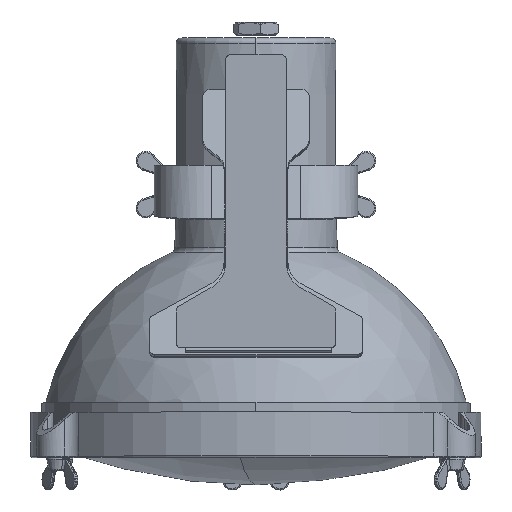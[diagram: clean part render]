
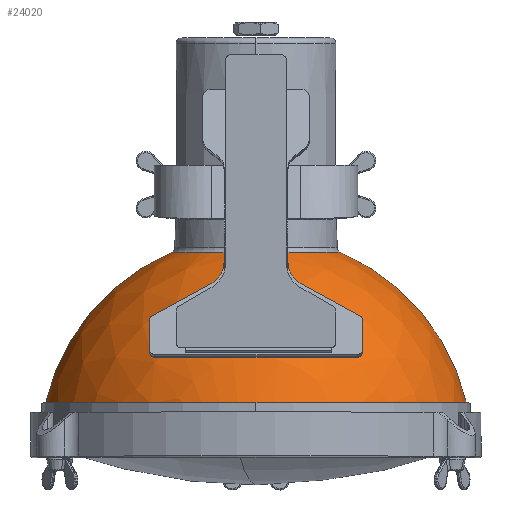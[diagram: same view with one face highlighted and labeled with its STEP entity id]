
A CAD part, top view. The second image highlights one B-rep face of the part: STEP entity #24020.
In plain terms, the highlighted spherical face has radius 80.966 mm.
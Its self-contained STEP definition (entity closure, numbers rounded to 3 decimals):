
#107 = EDGE_CURVE ( 'NONE', #3839, #2964, #2608, .T. ) ;
#409 = ORIENTED_EDGE ( 'NONE', *, *, #9322, .F. ) ;
#1371 = DIRECTION ( 'NONE',  ( 1., 0., 0. ) ) ;
#1723 = DIRECTION ( 'NONE',  ( 0., 0., 1. ) ) ;
#1816 = CIRCLE ( 'NONE', #1997, 78.94 ) ;
#1847 = DIRECTION ( 'NONE',  ( 0., 1., 0. ) ) ;
#1997 = AXIS2_PLACEMENT_3D ( 'NONE', #17620, #1847, #20253 ) ;
#2608 = CIRCLE ( 'NONE', #14446, 31.708 ) ;
#2964 = VERTEX_POINT ( 'NONE', #27275 ) ;
#3594 = FACE_OUTER_BOUND ( 'NONE', #21167, .T. ) ;
#3839 = VERTEX_POINT ( 'NONE', #24270 ) ;
#4349 = CARTESIAN_POINT ( 'NONE',  ( 0., 76.999, 0. ) ) ;
#4803 = CARTESIAN_POINT ( 'NONE',  ( -78.94, 20.5, 0. ) ) ;
#5164 = DIRECTION ( 'NONE',  ( 0., -1., 0. ) ) ;
#5312 = CARTESIAN_POINT ( 'NONE',  ( 78.94, 20.5, 0. ) ) ;
#7011 = DIRECTION ( 'NONE',  ( 0., 0., 1. ) ) ;
#9322 = EDGE_CURVE ( 'NONE', #16042, #19107, #18578, .T. ) ;
#10039 = VERTEX_POINT ( 'NONE', #5312 ) ;
#10594 = SPHERICAL_SURFACE ( 'NONE', #17486, 80.966 ) ;
#13509 = DIRECTION ( 'NONE',  ( 0., 0., -1. ) ) ;
#14120 = EDGE_CURVE ( 'NONE', #10039, #3839, #26492, .T. ) ;
#14446 = AXIS2_PLACEMENT_3D ( 'NONE', #15735, #5164, #21028 ) ;
#15115 = CIRCLE ( 'NONE', #22741, 31.708 ) ;
#15735 = CARTESIAN_POINT ( 'NONE',  ( 0., 76.999, 0. ) ) ;
#15786 = ORIENTED_EDGE ( 'NONE', *, *, #24114, .T. ) ;
#16042 = VERTEX_POINT ( 'NONE', #4803 ) ;
#16478 = AXIS2_PLACEMENT_3D ( 'NONE', #29209, #13509, #31858 ) ;
#17486 = AXIS2_PLACEMENT_3D ( 'NONE', #24942, #30189, #1371 ) ;
#17503 = CARTESIAN_POINT ( 'NONE',  ( 0., 2.5, 0. ) ) ;
#17620 = CARTESIAN_POINT ( 'NONE',  ( 0., 20.5, 0. ) ) ;
#18062 = ORIENTED_EDGE ( 'NONE', *, *, #14120, .T. ) ;
#18578 = CIRCLE ( 'NONE', #16478, 80.966 ) ;
#19107 = VERTEX_POINT ( 'NONE', #22544 ) ;
#20139 = DIRECTION ( 'NONE',  ( 1., 0., 0. ) ) ;
#20175 = AXIS2_PLACEMENT_3D ( 'NONE', #17503, #1723, #20139 ) ;
#20253 = DIRECTION ( 'NONE',  ( 0., 0., -1. ) ) ;
#21028 = DIRECTION ( 'NONE',  ( 0., 0., 1. ) ) ;
#21167 = EDGE_LOOP ( 'NONE', ( #409, #22399, #18062, #30621, #15786 ) ) ;
#22399 = ORIENTED_EDGE ( 'NONE', *, *, #30498, .T. ) ;
#22544 = CARTESIAN_POINT ( 'NONE',  ( -31.708, 76.999, 0. ) ) ;
#22736 = DIRECTION ( 'NONE',  ( 0., -1., 0. ) ) ;
#22741 = AXIS2_PLACEMENT_3D ( 'NONE', #4349, #22736, #7011 ) ;
#24020 = ADVANCED_FACE ( 'NONE', ( #3594 ), #10594, .T. ) ;
#24114 = EDGE_CURVE ( 'NONE', #2964, #19107, #15115, .T. ) ;
#24270 = CARTESIAN_POINT ( 'NONE',  ( 31.708, 76.999, 0. ) ) ;
#24942 = CARTESIAN_POINT ( 'NONE',  ( 0., 2.5, 0. ) ) ;
#26492 = CIRCLE ( 'NONE', #20175, 80.966 ) ;
#27275 = CARTESIAN_POINT ( 'NONE',  ( 0., 76.999, 31.708 ) ) ;
#29209 = CARTESIAN_POINT ( 'NONE',  ( 0., 2.5, 0. ) ) ;
#30189 = DIRECTION ( 'NONE',  ( 0., 0., -1. ) ) ;
#30498 = EDGE_CURVE ( 'NONE', #16042, #10039, #1816, .T. ) ;
#30621 = ORIENTED_EDGE ( 'NONE', *, *, #107, .T. ) ;
#31858 = DIRECTION ( 'NONE',  ( 0., 1., 0. ) ) ;
